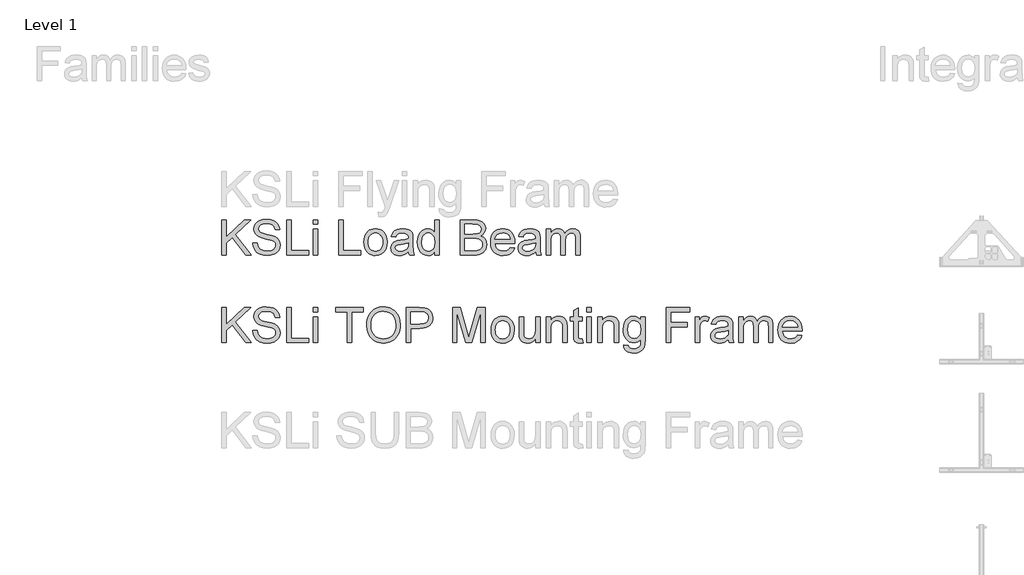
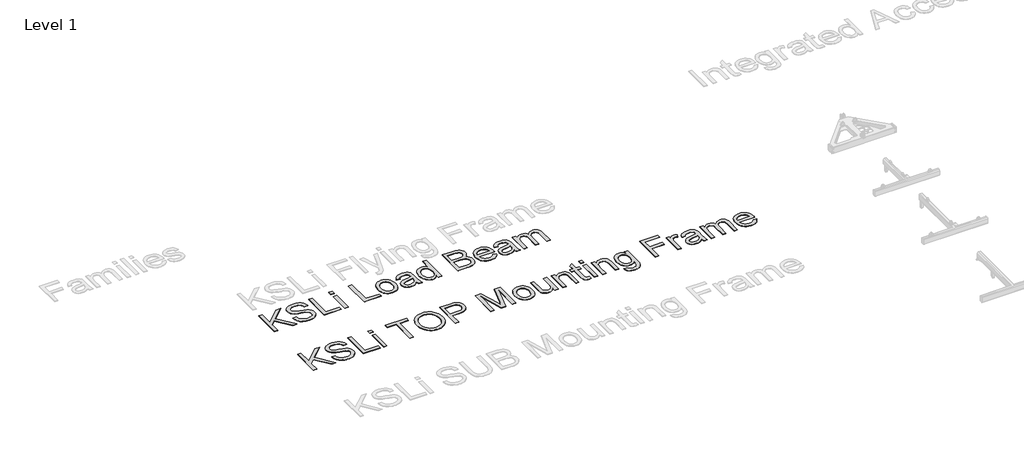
# One storey, part 34 of 52: 2 proxies.
"""IFC4 building model written with IfcOpenShell, lengths in millimetres."""

import ifcopenshell
import ifcopenshell.guid

model = None  # the IFC model being written
_history = None  # IfcOwnerHistory: only IFC2X3 demands one
_inside = {}  # id of a spatial element -> (the spatial element, [elements in it])
_under = {}  # id of a project, library or spatial element -> (it, [spatial elements below it])
_declared = {}  # id of a project -> (the project, [libraries it declares])
_typed = {}  # id of a type object -> (the type object, [elements of that type])
_made_of = {}  # id of a material, layer set ... -> (it, [elements and type objects made of it])


def new_model(schema):
    """Start an empty IFC model of exactly this schema.

    Asked for "IFC4X3", IfcOpenShell would pick the latest addendum, in which some entities
    have other attributes; the version numbers below select the first issue.
    IFC2X3 requires an IfcOwnerHistory on every rooted entity: one is made here for all.
    """
    global model, _history
    if schema == "IFC4X3":
        model = ifcopenshell.file(schema_version=(4, 3, 0, 0))
    else:
        model = ifcopenshell.file(schema=schema)
    _inside.clear()
    _under.clear()
    _declared.clear()
    _typed.clear()
    _made_of.clear()
    _history = None
    if model.schema == "IFC2X3":
        org = make("IfcOrganization", Name="unknown")
        user = make(
            "IfcPersonAndOrganization",
            ThePerson=make("IfcPerson", FamilyName="unknown"),
            TheOrganization=org,
        )
        app = make(
            "IfcApplication",
            ApplicationDeveloper=org,
            Version="unknown",
            ApplicationFullName="unknown",
            ApplicationIdentifier="unknown",
        )
        _history = make(
            "IfcOwnerHistory",
            OwningUser=user,
            OwningApplication=app,
            ChangeAction="ADDED",
            CreationDate=0,
        )
    return model


def make(cls, **values):
    """One entity of the class cls with the attributes given. An attribute that is None is left unset."""
    return model.create_entity(
        cls, **{name: value for name, value in values.items() if value is not None}
    )


def rooted(cls, **values):
    """An entity with a GlobalId (a new one), such as an element, a storey or a relation."""
    return make(cls, GlobalId=ifcopenshell.guid.new(), OwnerHistory=_history, **values)


def si_unit(unit_type, name, prefix=None):
    """IfcSIUnit, for example si_unit("LENGTHUNIT", "METRE", prefix="MILLI")."""
    return make("IfcSIUnit", UnitType=unit_type, Prefix=prefix, Name=name)


def assignment(units):
    """IfcUnitAssignment: the units of a project."""
    return None if units is None else make("IfcUnitAssignment", Units=units)


def point(xyz):
    """IfcCartesianPoint."""
    return None if xyz is None else make("IfcCartesianPoint", Coordinates=xyz)


def direction(xyz):
    """IfcDirection."""
    return None if xyz is None else make("IfcDirection", DirectionRatios=xyz)


def frame(location, z_axis=None, x_axis=None):
    """IfcAxis2Placement3D, a coordinate frame: its origin and axes. An axis left out is left unset."""
    return make(
        "IfcAxis2Placement3D",
        Location=point(location),
        Axis=direction(z_axis),
        RefDirection=direction(x_axis),
    )


def origin():
    """The frame at (0, 0, 0) with its axes left unset."""
    return frame((0.0, 0.0, 0.0))


def origin_with_axes():
    """The frame at (0, 0, 0) with the z axis (0, 0, 1) and the x axis (1, 0, 0) written out."""
    return frame((0.0, 0.0, 0.0), z_axis=(0.0, 0.0, 1.0), x_axis=(1.0, 0.0, 0.0))


def place(relative_to, where):
    """IfcLocalPlacement: puts the frame where relative to a parent placement (None: the world)."""
    return make(
        "IfcLocalPlacement", PlacementRelTo=relative_to, RelativePlacement=where
    )


def context(
    kind, dimensions, precision=None, world=None, true_north=None, identifier=None
):
    """IfcGeometricRepresentationContext, for example the 3D "Model" context."""
    return make(
        "IfcGeometricRepresentationContext",
        ContextIdentifier=identifier,
        ContextType=kind,
        CoordinateSpaceDimension=dimensions,
        Precision=precision,
        WorldCoordinateSystem=world,
        TrueNorth=true_north,
    )


def project(units=None, contexts=None):
    """IfcProject with its units and contexts."""
    return rooted(
        "IfcProject",
        Name="project",
        RepresentationContexts=contexts,
        UnitsInContext=assignment(units),
    )


def spatial(cls, under=None, at=None, **own):
    """A site, building, storey or space (cls), placed at a placement, below another one or the project."""
    s = rooted(cls, ObjectPlacement=at, **own)
    if under is not None:
        _under.setdefault(under.id(), (under, []))[1].append(s)
    return s


def polyline(points):
    """IfcPolyline through the points."""
    return make("IfcPolyline", Points=[point(p) for p in points])


def outline(outer, holes=None, kind="AREA"):
    """IfcArbitraryClosedProfileDef: a profile drawn as a closed curve; with holes, ...WithVoids."""
    if holes is None:
        return make("IfcArbitraryClosedProfileDef", ProfileType=kind, OuterCurve=outer)
    return make(
        "IfcArbitraryProfileDefWithVoids",
        ProfileType=kind,
        OuterCurve=outer,
        InnerCurves=holes,
    )


def extrude(swept, where, along, depth):
    """IfcExtrudedAreaSolid: the profile swept, set in the frame where, extruded along a direction by depth."""
    return make(
        "IfcExtrudedAreaSolid",
        SweptArea=swept,
        Position=where,
        ExtrudedDirection=direction(along),
        Depth=depth,
    )


def shape(context_of_items, identifier, shape_type, items):
    """IfcShapeRepresentation: the items that make up one representation, for example the "Body"."""
    return make(
        "IfcShapeRepresentation",
        ContextOfItems=context_of_items,
        RepresentationIdentifier=identifier,
        RepresentationType=shape_type,
        Items=items,
    )


def made_of(thing, what):
    """Note that an element or type object is made of a material, layer set ...; save() writes the relation."""
    if what is not None:
        _made_of.setdefault(what.id(), (what, []))[1].append(thing)
    return thing


def element(
    cls,
    number,
    at=None,
    inside=None,
    cuts=None,
    type_object=None,
    material=None,
    context=None,
    identifier="Body",
    shape_type=None,
    held_by="IfcProductDefinitionShape",
    body=None,
    shapes=None,
    **own,
):
    """One element of the class cls, such as IfcWall. Its Tag is "e" and its number.

    at: its placement. inside: the storey or other place that contains it. cuts: it is an
    opening in that element (IfcRelVoidsElement). A single representation is given by context,
    identifier, shape_type and body (its items); several are given by shapes. held_by: the class
    of the entity that holds the representations. save() writes the other relations.
    """
    e = rooted(cls, Tag="e%d" % number, ObjectPlacement=at, **own)
    if body is not None:
        shapes = [shape(context, identifier, shape_type, body)]
    if shapes is not None:
        e.Representation = make(held_by, Representations=shapes)
    if inside is not None:
        _inside.setdefault(inside.id(), (inside, []))[1].append(e)
    if cuts is not None:
        rooted(
            "IfcRelVoidsElement", RelatingBuildingElement=cuts, RelatedOpeningElement=e
        )
    if type_object is not None:
        _typed.setdefault(type_object.id(), (type_object, []))[1].append(e)
    return made_of(e, material)


def aggregate(whole, parts):
    """IfcRelAggregates: a whole, such as a stair, and the parts it consists of."""
    return rooted("IfcRelAggregates", RelatingObject=whole, RelatedObjects=parts)


def save(model, path):
    """Write the relations noted so far, then the file.

    IfcRelAggregates (storeys below a building ...), IfcRelContainedInSpatialStructure (elements
    in a storey), IfcRelDefinesByType, IfcRelAssociatesMaterial and IfcRelDeclares: one each for
    every whole, place, type object, material and project.
    """
    for whole, parts in _under.values():
        aggregate(whole, parts)
    for where, things in _inside.values():
        rooted(
            "IfcRelContainedInSpatialStructure",
            RelatedElements=things,
            RelatingStructure=where,
        )
    for kind, things in _typed.values():
        rooted("IfcRelDefinesByType", RelatedObjects=things, RelatingType=kind)
    for what, things in _made_of.values():
        rooted("IfcRelAssociatesMaterial", RelatedObjects=things, RelatingMaterial=what)
    for by, libraries in _declared.values():
        rooted("IfcRelDeclares", RelatingContext=by, RelatedDefinitions=libraries)
    model.write(path)


model = new_model("IFC4")

# Units and contexts
model_context = context("Model", 3, world=origin())
ifc_project = project(units=[si_unit("LENGTHUNIT", "METRE", prefix="MILLI")], contexts=[model_context])

# Site, building, storey
site = spatial("IfcSite", under=ifc_project)
building = spatial("IfcBuilding", under=site)
storey = spatial("IfcBuildingStorey", under=building, Name="Level 1", Elevation=0.0)

# Proxies
placement = place(None, origin())
element("IfcBuildingElementProxy", 1, Name="400mm Arial", ObjectType="400mm Arial", at=placement, inside=storey, context=model_context, shape_type="SweptSolid", body=[
    extrude(outline(polyline([(8048.9284942, -52556.6859046), (8048.9284942, -52154.860664), (8099.1566493, -52154.860664), (8099.1566493, -52351.554904), (8305.1705666, -52154.860664), (8375.4115022, -52154.860664), (8202.4579136, -52320.0642053), (8381.6900216, -52556.6859046), (8320.2782539, -52556.6859046), (8166.8469364, -52354.0074507), (8099.1566493, -52418.5584781), (8099.1566493, -52556.6859046), (8048.9284942, -52556.6859046)])), origin_with_axes(), (0.0, 0.0, 1.0), 5.0),
    extrude(outline(polyline([(8400.5255798, -52418.5584781), (8450.7537348, -52418.5584781), (8456.5172194, -52446.4316706), (8466.9405426, -52468.8356841), (8483.2009268, -52486.6166472), (8506.4755944, -52500.6206885), (8534.9251353, -52509.7073738), (8566.7101397, -52512.7362689), (8594.6936968, -52510.4431378), (8619.1946377, -52503.5637445), (8639.0480027, -52492.6744374), (8653.0888322, -52478.3515651), (8661.4397535, -52461.9072399), (8664.2233939, -52444.6535743), (8662.1387293, -52427.8413671), (8655.8847354, -52413.3100283), (8643.1805438, -52400.9124051), (8621.7452862, -52390.5013446), (8548.6103456, -52371.3224299), (8500.6017452, -52358.6305011), (8469.8835986, -52346.5517089), (8444.8798857, -52329.6536626), (8427.1602362, -52309.1748982), (8416.602023, -52285.5568741), (8413.0826185, -52259.2410487), (8417.4358888, -52229.8227518), (8430.4956996, -52202.3910177), (8451.9186945, -52179.1408756), (8481.3615168, -52162.2673548), (8516.7027138, -52152.0034471), (8555.8208327, -52148.5821446), (8598.2008385, -52152.1628627), (8635.2833436, -52162.9050169), (8665.7439728, -52180.5878782), (8688.2583509, -52204.9907172), (8702.5076469, -52234.592955), (8708.1730296, -52267.8740129), (8657.9448745, -52267.8740129), (8648.7232992, -52237.903893), (8640.3601152, -52226.04583), (8629.4953336, -52216.2724317), (8599.4516373, -52203.1758327), (8557.78287, -52198.8102996), (8515.133084, -52203.1267817), (8498.8297802, -52208.5223843), (8485.8742027, -52216.076228), (8468.9516309, -52235.1325153), (8463.3107736, -52257.7695207), (8467.3084246, -52277.0710628), (8479.3013777, -52292.595683), (8507.6528168, -52306.4770969), (8561.3145371, -52320.6528165), (8616.6930401, -52334.1172975), (8650.1948272, -52345.8649959), (8678.8283091, -52364.0874173), (8698.8043015, -52386.57727), (8710.5397371, -52413.0892991), (8714.451549, -52443.37825), (8709.9511259, -52474.3416513), (8696.4498567, -52503.4656426), (8674.4995643, -52528.5306692), (8644.6520718, -52547.3171764), (8608.7590518, -52559.0526121), (8568.672177, -52562.9644239), (8519.4618288, -52558.7460437), (8478.9580211, -52546.0909031), (8446.6947702, -52524.9499511), (8422.206092, -52495.2741368), (8406.4852681, -52459.1235994), (8400.5255798, -52418.5584781)])), origin_with_axes(), (0.0, 0.0, 1.0), 5.0),
    extrude(outline(polyline([(8789.7937816, -52556.6859046), (8789.7937816, -52154.860664), (8840.0219367, -52154.860664), (8840.0219367, -52506.4577495), (9040.934557, -52506.4577495), (9040.934557, -52556.6859046), (8789.7937816, -52556.6859046)])), origin_with_axes(), (0.0, 0.0, 1.0), 5.0),
    extrude(outline(polyline([(9091.162712, -52205.088819), (9091.162712, -52154.860664), (9141.3908671, -52154.860664), (9141.3908671, -52205.088819), (9091.162712, -52205.088819)])), origin_with_axes(), (0.0, 0.0, 1.0), 5.0),
    extrude(outline(polyline([(9091.162712, -52556.6859046), (9091.162712, -52261.5954935), (9141.3908671, -52261.5954935), (9141.3908671, -52556.6859046), (9091.162712, -52556.6859046)])), origin_with_axes(), (0.0, 0.0, 1.0), 5.0),
    extrude(outline(polyline([(9480.4309139, -52556.6859046), (9480.4309139, -52205.088819), (9348.5820068, -52205.088819), (9348.5820068, -52154.860664), (9662.507976, -52154.860664), (9662.507976, -52205.088819), (9530.659069, -52205.088819), (9530.659069, -52556.6859046), (9480.4309139, -52556.6859046)])), origin_with_axes(), (0.0, 0.0, 1.0), 5.0),
    extrude(outline(polyline([(9700.1790923, -52361.070785), (9703.5268185, -52313.93897), (9713.569997, -52272.2150204), (9730.3086277, -52235.8989361), (9753.7427108, -52204.9907172), (9782.4681633, -52180.3119667), (9815.0809022, -52162.6842877), (9851.5809274, -52152.1076804), (9891.9682391, -52148.5821446), (9919.0014344, -52150.2376136), (9944.6734663, -52155.2040205), (9968.9843348, -52163.4813654), (9991.93404, -52175.0696482), (10012.8787882, -52189.6193811), (10031.1747861, -52206.7810762), (10046.8220337, -52226.5547335), (10059.8205308, -52248.9403529), (10070.0353875, -52273.429031), (10077.3317138, -52299.5118645), (10083.1687748, -52356.4599973), (10081.6328674, -52386.1174175), (10077.0251455, -52414.1684196), (10069.3456088, -52440.6130037), (10058.5942575, -52465.4511698), (10045.0255432, -52488.0268615), (10028.8939178, -52507.6840228), (10010.199381, -52524.4226536), (9988.9419331, -52538.2427539), (9965.9585054, -52549.0584845), (9942.0860296, -52556.7840064), (9917.3245057, -52561.4193196), (9891.6739336, -52562.9644239), (9864.168623, -52561.2568383), (9838.159366, -52556.1340816), (9813.6461624, -52547.5961536), (9790.6290122, -52535.6430544), (9769.7087894, -52520.7377023), (9751.4863679, -52503.3430153), (9735.9617477, -52483.4589934), (9723.1349288, -52461.0856367), (9705.9180515, -52412.4638997), (9700.1790923, -52361.070785)]), holes=[polyline([(9750.4072474, -52361.5612943), (9752.918042, -52394.8607462), (9760.4504259, -52424.4200646), (9773.004399, -52450.2392493), (9790.5799613, -52472.3183003), (9811.9447081, -52490.0011616), (9835.8662349, -52502.6317767), (9862.3445415, -52510.2101458), (9891.379628, -52512.7362689), (9920.9113551, -52510.1856204), (9947.7023614, -52502.5336749), (9971.7526469, -52489.7804324), (9993.0622114, -52471.9258929), (10010.509015, -52449.3808579), (10022.9710176, -52422.5561291), (10030.4482192, -52391.4517064), (10032.9406197, -52356.0675899), (10028.6731886, -52311.6029194), (10015.8708951, -52273.1715136), (9994.8648332, -52241.7421285), (9965.9860966, -52218.2835199), (9931.1476716, -52203.6786047), (9892.2625447, -52198.8102996), (9864.2360681, -52201.1555474), (9838.2329424, -52208.1912905), (9814.2531677, -52219.9175291), (9792.2967439, -52236.3342632), (9773.9700892, -52258.2324389), (9760.8796215, -52286.4030027), (9753.0253409, -52320.8459545), (9750.4072474, -52361.5612943)])]), origin_with_axes(), (0.0, 0.0, 1.0), 5.0),
    extrude(outline(polyline([(10152.232488, -52556.6859046), (10152.232488, -52154.860664), (10301.1511197, -52154.860664), (10361.1894613, -52158.6866367), (10387.9590078, -52165.8358101), (10409.9951393, -52177.4731439), (10427.7393142, -52194.1259356), (10441.6329909, -52216.3214826), (10450.6093116, -52242.5024179), (10453.6014185, -52271.1113744), (10451.5811332, -52295.7778622), (10445.5202773, -52318.4700499), (10435.4188508, -52339.1879376), (10421.2768538, -52357.9315253), (10401.8618815, -52373.4684082), (10375.9415293, -52384.5661817), (10343.5157971, -52391.2248459), (10304.5846849, -52393.4444006), (10202.4606431, -52393.4444006), (10202.4606431, -52556.6859046), (10152.232488, -52556.6859046)]), holes=[polyline([(10202.4606431, -52343.2162455), (10307.5277409, -52343.2162455), (10352.0659878, -52338.6054578), (10368.6697285, -52332.8419732), (10381.4965474, -52324.7730948), (10391.0676106, -52314.6134204), (10397.9040844, -52302.5775478), (10403.3732634, -52272.877208), (10400.1481646, -52250.313779), (10390.4728681, -52231.2820171), (10375.5491218, -52216.9591447), (10356.5786736, -52208.5223843), (10306.3505185, -52205.088819), (10202.4606431, -52205.088819), (10202.4606431, -52343.2162455)])]), origin_with_axes(), (0.0, 0.0, 1.0), 5.0),
    extrude(outline(polyline([(10679.6281163, -52556.6859046), (10679.6281163, -52154.860664), (10766.0558597, -52154.860664), (10848.2652229, -52438.0807493), (10864.8444381, -52497.2361741), (10882.7970795, -52433.175656), (10963.6330166, -52154.860664), (11050.06076, -52154.860664), (11050.06076, -52556.6859046), (10999.8326049, -52556.6859046), (10999.8326049, -52205.088819), (10898.8857854, -52556.6859046), (10830.8030908, -52556.6859046), (10729.8562714, -52205.088819), (10729.8562714, -52556.6859046), (10679.6281163, -52556.6859046)])), origin_with_axes(), (0.0, 0.0, 1.0), 5.0),
    extrude(outline(polyline([(11119.1244732, -52409.140699), (11121.8406686, -52370.9238911), (11129.9892548, -52337.9923212), (11143.5702318, -52310.3459892), (11162.5835996, -52287.9848953), (11181.725726, -52273.6926798), (11202.8544153, -52263.4839544), (11225.9696673, -52257.3587192), (11251.0714821, -52255.3169741), (11278.7821934, -52257.8032433), (11303.838023, -52265.2620507), (11326.2389708, -52277.6933965), (11345.9850369, -52295.0972805), (11362.101334, -52316.8850917), (11373.6129747, -52342.4682188), (11380.5199592, -52371.8466618), (11382.8222873, -52405.0204207), (11378.7510599, -52455.7636105), (11366.5373777, -52494.39122), (11346.5368599, -52523.3190076), (11319.1051258, -52544.9627316), (11286.5230437, -52558.4640009), (11251.0714821, -52562.9644239), (11222.9561006, -52560.4873518), (11197.6672792, -52553.0561355), (11175.2050177, -52540.670775), (11155.5693162, -52523.3312703), (11139.6246974, -52501.331927), (11128.2356839, -52474.9670507), (11121.4022759, -52444.2366414), (11119.1244732, -52409.140699)]), holes=[polyline([(11169.3526283, -52409.0425972), (11170.8057622, -52433.4055823), (11175.1651638, -52454.500549), (11182.4308332, -52472.3274974), (11192.6027704, -52486.8864273), (11204.9758681, -52498.195733), (11218.8450194, -52506.2738085), (11234.210224, -52511.1206538), (11251.0714821, -52512.7362689), (11267.8469011, -52511.1114567), (11283.1507921, -52506.2370203), (11296.9831551, -52498.1129596), (11309.3439902, -52486.7392745), (11319.5159273, -52472.0362575), (11326.7815967, -52453.9242006), (11331.1409984, -52432.4031039), (11332.5941323, -52407.4729673), (11331.1318013, -52383.8825344), (11326.7448085, -52363.3393906), (11319.4331539, -52345.8435361), (11309.1968374, -52331.3949707), (11296.7900171, -52320.085665), (11282.9668511, -52312.0075896), (11267.7273395, -52307.1607443), (11251.0714821, -52305.5451292), (11234.210224, -52307.1546129), (11218.8450194, -52311.9830641), (11204.9758681, -52320.0304827), (11192.6027704, -52331.2968688), (11182.4308332, -52345.8128792), (11175.1651638, -52363.6091708), (11170.8057622, -52384.6857434), (11169.3526283, -52409.0425972)])]), origin_with_axes(), (0.0, 0.0, 1.0), 5.0),
    extrude(outline(polyline([(11627.6845433, -52556.6859046), (11627.6845433, -52505.9672402), (11609.5111728, -52530.9035081), (11588.3456953, -52548.715128), (11564.188111, -52559.4021), (11537.0384197, -52562.9644239), (11512.574267, -52560.4628264), (11489.8023715, -52552.9580337), (11470.6970333, -52541.6763192), (11457.2325522, -52527.8439561), (11448.1703924, -52511.0440117), (11442.2720178, -52490.8595529), (11439.3289618, -52444.163065), (11439.3289618, -52261.5954935), (11489.5571169, -52261.5954935), (11489.5571169, -52420.5205154), (11492.5982747, -52471.7296891), (11499.9191264, -52488.8116764), (11512.4639024, -52501.7979109), (11529.3987369, -52510.0016794), (11549.8897641, -52512.7362689), (11571.5580136, -52509.9403657), (11591.8283115, -52501.5526562), (11608.5424168, -52488.3456926), (11619.5420885, -52471.092027), (11625.6489296, -52447.4617402), (11627.6845433, -52415.1249128), (11627.6845433, -52261.5954935), (11677.9126984, -52261.5954935), (11677.9126984, -52556.6859046), (11627.6845433, -52556.6859046)])), origin_with_axes(), (0.0, 0.0, 1.0), 5.0),
    extrude(outline(polyline([(11746.9764116, -52556.6859046), (11746.9764116, -52261.5954935), (11797.2045667, -52261.5954935), (11797.2045667, -52302.798277), (11814.654436, -52282.025207), (11835.611447, -52267.1872998), (11860.0755997, -52258.2845555), (11888.046894, -52255.3169741), (11912.8053523, -52257.7082071), (11935.479146, -52264.881906), (11954.3882805, -52275.9428913), (11967.8527615, -52289.9959835), (11976.9884977, -52307.0043944), (11982.9113979, -52326.9313358), (11985.5601482, -52375.4917592), (11985.5601482, -52556.6859046), (11935.3319932, -52556.6859046), (11935.3319932, -52382.2607879), (11933.8849906, -52356.2883191), (11929.5439831, -52337.8206429), (11921.5364183, -52324.5891538), (11909.0897442, -52314.3252461), (11893.1359283, -52307.7401584), (11874.6069385, -52305.5451292), (11845.1886416, -52310.4747479), (11820.1113523, -52325.2636041), (11810.0896336, -52337.3362649), (11802.9312631, -52353.8357724), (11798.6362408, -52374.7621266), (11797.2045667, -52400.1153274), (11797.2045667, -52556.6859046), (11746.9764116, -52556.6859046)])), origin_with_axes(), (0.0, 0.0, 1.0), 5.0),
    extrude(outline(polyline([(12161.358691, -52514.796408), (12167.6372104, -52558.1574325), (12130.0641959, -52562.9644239), (12105.9556625, -52560.8797593), (12087.9784957, -52554.6257654), (12075.2743041, -52544.9872571), (12066.9846965, -52532.7490494), (12062.4229598, -52511.7307247), (12060.9023808, -52475.7518656), (12060.9023808, -52311.8236486), (12023.2312645, -52311.8236486), (12023.2312645, -52261.5954935), (12060.9023808, -52261.5954935), (12060.9023808, -52189.8830299), (12111.1305359, -52160.3543684), (12111.1305359, -52261.5954935), (12161.358691, -52261.5954935), (12161.358691, -52311.8236486), (12111.1305359, -52311.8236486), (12111.1305359, -52474.2803376), (12113.7792863, -52500.1792301), (12122.3631995, -52509.3517545), (12139.481975, -52512.7362689), (12161.358691, -52514.796408)])), origin_with_axes(), (0.0, 0.0, 1.0), 5.0),
    extrude(outline(polyline([(12211.5868461, -52556.6859046), (12211.5868461, -52261.5954935), (12261.8150011, -52261.5954935), (12261.8150011, -52556.6859046), (12211.5868461, -52556.6859046)])), origin_with_axes(), (0.0, 0.0, 1.0), 5.0),
    extrude(outline(polyline([(12211.5868461, -52205.088819), (12211.5868461, -52154.860664), (12261.8150011, -52154.860664), (12261.8150011, -52205.088819), (12211.5868461, -52205.088819)])), origin_with_axes(), (0.0, 0.0, 1.0), 5.0),
    extrude(outline(polyline([(12337.1572338, -52556.6859046), (12337.1572338, -52261.5954935), (12387.3853888, -52261.5954935), (12387.3853888, -52302.798277), (12404.8352581, -52282.025207), (12425.7922691, -52267.1872998), (12450.2564218, -52258.2845555), (12478.2277162, -52255.3169741), (12502.9861745, -52257.7082071), (12525.6599681, -52264.881906), (12544.5691026, -52275.9428913), (12558.0335837, -52289.9959835), (12567.1693199, -52307.0043944), (12573.09222, -52326.9313358), (12575.7409704, -52375.4917592), (12575.7409704, -52556.6859046), (12525.5128153, -52556.6859046), (12525.5128153, -52382.2607879), (12524.0658128, -52356.2883191), (12519.7248052, -52337.8206429), (12511.7172405, -52324.5891538), (12499.2705663, -52314.3252461), (12483.3167504, -52307.7401584), (12464.7877606, -52305.5451292), (12435.3694637, -52310.4747479), (12410.2921744, -52325.2636041), (12400.2704557, -52337.3362649), (12393.1120852, -52353.8357724), (12388.8170629, -52374.7621266), (12387.3853888, -52400.1153274), (12387.3853888, -52556.6859046), (12337.1572338, -52556.6859046)])), origin_with_axes(), (0.0, 0.0, 1.0), 5.0),
    extrude(outline(polyline([(12632.2476448, -52581.7999821), (12682.4757999, -52588.0785015), (12688.0185553, -52603.7747999), (12698.7607096, -52614.5660051), (12719.8771361, -52622.9537146), (12747.5173366, -52625.7496178), (12776.9969472, -52622.5858326), (12798.9227141, -52613.0944772), (12814.1285032, -52597.888688), (12823.4481804, -52577.5816019), (12826.8817457, -52519.0147883), (12810.1676404, -52535.4959016), (12791.5160233, -52547.2681255), (12770.9268943, -52554.3314598), (12748.4002534, -52556.6859046), (12720.8612204, -52553.9451837), (12696.6147312, -52545.7230211), (12675.6607859, -52532.0194168), (12657.9993845, -52512.8343707), (12643.9861462, -52489.8172206), (12633.9766902, -52464.6173039), (12627.9710166, -52437.2346207), (12625.9691254, -52407.669171), (12629.5621063, -52367.1163124), (12640.3410487, -52329.8253409), (12657.9258081, -52298.2242775), (12681.9362396, -52274.7411435), (12711.5507402, -52260.1730164), (12745.9477068, -52255.3169741), (12769.4369722, -52258.0638263), (12790.7557338, -52266.304383), (12809.9039917, -52280.0386442), (12826.8817457, -52299.2666098), (12826.8817457, -52261.5954935), (12877.1099008, -52261.5954935), (12877.1099008, -52516.3660379), (12873.6763355, -52575.1903689), (12863.3756397, -52613.928343), (12845.6314648, -52639.618769), (12819.8674624, -52659.3004557), (12786.6477182, -52671.8084436), (12746.536318, -52675.9777729), (12721.9280782, -52674.5093106), (12699.8030419, -52670.1039237), (12680.161209, -52662.7616122), (12663.0025796, -52652.4823761), (12649.1426255, -52639.2539527), (12639.3968183, -52623.0640792), (12633.7651581, -52603.9127557), (12632.2476448, -52581.7999821)]), holes=[polyline([(12676.1972805, -52404.2356058), (12681.5560949, -52450.3066943), (12688.2546129, -52467.9435703), (12697.6325381, -52481.9813341), (12709.0338143, -52492.6897658), (12721.8023852, -52500.3386456), (12735.9382508, -52504.9279735), (12751.4414113, -52506.4577495), (12766.7912875, -52504.9371706), (12780.8597081, -52500.3754338), (12793.6466732, -52492.7725393), (12805.1521826, -52482.1284869), (12814.6588664, -52468.2286788), (12821.4493549, -52450.8585173), (12826.8817457, -52405.7071337), (12821.2899394, -52362.1621682), (12814.3001815, -52344.9606193), (12804.5145204, -52330.8063595), (12792.7606907, -52319.7545712), (12779.8664268, -52311.8604368), (12765.8317286, -52307.1239561), (12750.6565963, -52305.5451292), (12735.7359157, -52307.0994306), (12721.9740634, -52311.7623349), (12697.9268437, -52330.4139521), (12688.4201598, -52344.353614), (12681.6296713, -52361.3037769), (12676.1972805, -52404.2356058)])]), origin_with_axes(), (0.0, 0.0, 1.0), 5.0),
    extrude(outline(polyline([(13115.6936374, -52556.6859046), (13115.6936374, -52154.860664), (13385.6699709, -52154.860664), (13385.6699709, -52205.088819), (13165.9217925, -52205.088819), (13165.9217925, -52324.3806873), (13354.277374, -52324.3806873), (13354.277374, -52374.6088424), (13165.9217925, -52374.6088424), (13165.9217925, -52556.6859046), (13115.6936374, -52556.6859046)])), origin_with_axes(), (0.0, 0.0, 1.0), 5.0),
    extrude(outline(polyline([(13448.4551648, -52556.6859046), (13448.4551648, -52261.5954935), (13492.4048005, -52261.5954935), (13492.4048005, -52305.2508236), (13508.6406592, -52279.9405423), (13523.6011937, -52265.0290588), (13538.6107791, -52257.7449953), (13554.9937906, -52255.3169741), (13580.0097663, -52259.1919978), (13605.4181494, -52270.8170688), (13588.6427304, -52315.845825), (13570.9843946, -52308.1203031), (13553.3260589, -52305.5451292), (13538.3287362, -52308.0222013), (13524.9255689, -52315.4534176), (13514.0975755, -52327.2746924), (13506.8257747, -52342.9219399), (13500.7189336, -52370.9790734), (13498.6833199, -52401.5868554), (13498.6833199, -52556.6859046), (13448.4551648, -52556.6859046)])), origin_with_axes(), (0.0, 0.0, 1.0), 5.0),
    extrude(outline(polyline([(13825.1663278, -52519.0147883), (13801.168159, -52539.5916545), (13776.4587517, -52553.0561355), (13750.4740201, -52560.4873518), (13722.6498785, -52562.9644239), (13700.2857189, -52561.4745019), (13680.6745429, -52557.0047356), (13663.8163504, -52549.5551252), (13649.7111416, -52539.1256707), (13638.5735142, -52526.3785595), (13630.6180661, -52511.9759794), (13625.8447972, -52495.9179303), (13624.2537076, -52478.2044123), (13626.6572033, -52457.3822913), (13633.8676904, -52438.4731568), (13644.9899893, -52422.286349), (13659.1289207, -52409.6312084), (13675.7449241, -52400.0662765), (13694.2984394, -52393.150095), (13737.7575658, -52385.5962513), (13789.1138923, -52377.6500002), (13824.8720223, -52368.330323), (13825.1663278, -52357.1467104), (13821.7082371, -52334.7304341), (13811.3339648, -52320.0642053), (13788.1328737, -52309.1748982), (13755.808309, -52305.5451292), (13725.8872401, -52307.9608876), (13704.9915428, -52315.2081629), (13690.7422468, -52328.6113303), (13680.760382, -52349.4947649), (13630.5322269, -52343.2162455), (13639.2510302, -52315.7477232), (13652.2617901, -52294.1653128), (13670.7785172, -52277.6596739), (13696.0152221, -52265.4214662), (13726.8805215, -52257.8430971), (13762.2830321, -52255.3169741), (13796.2385403, -52257.5487915), (13823.1552396, -52264.2442439), (13843.450063, -52274.3119478), (13857.5399434, -52286.6605201), (13866.8841461, -52301.9276229), (13872.9419363, -52320.7509183), (13875.3944829, -52364.700554), (13875.3944829, -52427.1914423), (13877.9451314, -52514.4530515), (13887.9515217, -52556.6859046), (13837.7233666, -52556.6859046), (13829.6790137, -52539.2237725), (13825.1663278, -52519.0147883)]), holes=[polyline([(13825.1663278, -52418.5584781), (13791.4192862, -52426.9216621), (13744.134187, -52433.960471), (13700.9203153, -52442.1029258), (13689.675389, -52447.6702067), (13681.3489932, -52455.3466776), (13676.1986453, -52464.5437275), (13674.4818626, -52474.6727451), (13678.2219962, -52489.6087541), (13689.4423971, -52501.8469618), (13707.8978105, -52510.0139421), (13733.3429819, -52512.7362689), (13760.3209948, -52509.7318992), (13784.1597481, -52500.7187904), (13803.4858156, -52487.4382503), (13816.9257712, -52471.6315873), (13822.8854595, -52455.3466776), (13824.8720223, -52432.7832486), (13825.1663278, -52418.5584781)])]), origin_with_axes(), (0.0, 0.0, 1.0), 5.0),
    extrude(outline(polyline([(13944.4581962, -52556.6859046), (13944.4581962, -52261.5954935), (13994.6863512, -52261.5954935), (13994.6863512, -52310.1559169), (14009.7940385, -52287.8500052), (14029.2182078, -52270.3756104), (14052.2966717, -52259.0816332), (14078.3672424, -52255.3169741), (14106.3017486, -52259.1552096), (14128.6934993, -52270.669916), (14145.4198674, -52289.100804), (14156.3582254, -52313.687584), (14174.666486, -52288.1504422), (14195.5499206, -52269.9096266), (14219.0085292, -52258.9651372), (14245.0423117, -52255.3169741), (14265.1501284, -52256.8344873), (14282.7992671, -52261.387027), (14297.9897278, -52268.9745932), (14310.7215106, -52279.5971858), (14320.7861488, -52293.3774322), (14327.9751761, -52310.4379597), (14332.2885925, -52330.7787684), (14333.726398, -52354.3998581), (14333.726398, -52556.6859046), (14283.4982429, -52556.6859046), (14283.4982429, -52375.9822685), (14282.3332833, -52350.9295047), (14278.8384043, -52334.0437211), (14272.2901048, -52322.4799637), (14261.9648835, -52313.3932784), (14248.6843434, -52307.5071665), (14233.2700878, -52305.5451292), (14206.0590829, -52310.5728498), (14183.8757986, -52325.6560116), (14175.2704256, -52337.2259003), (14169.1237306, -52351.8246842), (14164.2063746, -52390.1089371), (14164.2063746, -52556.6859046), (14113.9782195, -52556.6859046), (14113.9782195, -52370.3904622), (14111.0719518, -52341.9899722), (14102.3531485, -52321.731937), (14087.0124693, -52309.5918311), (14064.2405738, -52305.5451292), (14044.8899808, -52308.2429305), (14027.0599668, -52316.3363344), (14012.344687, -52329.6291371), (14002.3382967, -52347.925135), (13996.5993376, -52373.3089927), (13994.6863512, -52407.8653748), (13994.6863512, -52556.6859046), (13944.4581962, -52556.6859046)])), origin_with_axes(), (0.0, 0.0, 1.0), 5.0),
    extrude(outline(polyline([(14615.6711591, -52468.7866332), (14664.9182955, -52475.0651526), (14657.3675176, -52494.7897589), (14647.1741206, -52512.1721831), (14634.3381047, -52527.2124254), (14618.8594697, -52539.9104856), (14600.8976313, -52549.9965836), (14580.6120049, -52557.2009394), (14533.0693884, -52562.9644239), (14501.9036521, -52560.4781548), (14474.1346928, -52553.0193473), (14449.7625106, -52540.5880016), (14428.7871055, -52523.1841175), (14411.9197161, -52501.2920731), (14399.8715807, -52475.3962464), (14392.6426995, -52445.4966372), (14390.2330724, -52411.5932457), (14392.667225, -52376.5402229), (14399.9696826, -52345.6442667), (14412.1404453, -52318.905377), (14429.179513, -52296.3235538), (14450.0997358, -52278.3831752), (14473.9139636, -52265.568619), (14500.6221965, -52257.8798853), (14530.2244343, -52255.3169741), (14558.8732447, -52257.873754), (14584.7813342, -52265.5440936), (14607.9487029, -52278.3279929), (14628.3753507, -52296.225452), (14645.0496021, -52318.7582242), (14656.9597817, -52345.4480629), (14664.1058894, -52376.2949682), (14666.4879254, -52411.2989401), (14666.1936198, -52424.8369975), (14440.4612275, -52424.8369975), (14443.370561, -52444.8804349), (14449.1555053, -52462.4345374), (14457.8160606, -52477.4993051), (14469.3522269, -52490.074738), (14483.1263419, -52499.9891577), (14498.5007436, -52507.0708861), (14534.0504071, -52512.7362689), (14560.7831654, -52510.112044), (14583.2975435, -52502.2393693), (14601.5935414, -52488.6277354), (14615.6711591, -52468.7866332)]), holes=[polyline([(14440.4612275, -52374.6088424), (14616.2597703, -52374.6088424), (14609.4662161, -52348.0722878), (14596.1488879, -52329.0895769), (14582.4514149, -52318.788881), (14566.8654811, -52311.4312411), (14549.3910863, -52307.0166572), (14530.0282306, -52305.5451292), (14496.1708243, -52310.241756), (14468.1750045, -52324.3316364), (14448.7140469, -52346.2941915), (14440.4612275, -52374.6088424)])]), origin_with_axes(), (0.0, 0.0, 1.0), 5.0),
])
element("IfcBuildingElementProxy", 2, Name="400mm Arial", ObjectType="400mm Arial", at=placement, inside=storey, context=model_context, shape_type="SweptSolid", body=[
    extrude(outline(polyline([(8048.9284942, -51556.6859046), (8048.9284942, -51154.860664), (8099.1566493, -51154.860664), (8099.1566493, -51351.554904), (8305.1705666, -51154.860664), (8375.4115022, -51154.860664), (8202.4579136, -51320.0642053), (8381.6900216, -51556.6859046), (8320.2782539, -51556.6859046), (8166.8469364, -51354.0074507), (8099.1566493, -51418.5584781), (8099.1566493, -51556.6859046), (8048.9284942, -51556.6859046)])), origin_with_axes(), (0.0, 0.0, 1.0), 5.0),
    extrude(outline(polyline([(8400.5255798, -51418.5584781), (8450.7537348, -51418.5584781), (8456.5172194, -51446.4316706), (8466.9405426, -51468.8356841), (8483.2009268, -51486.6166472), (8506.4755944, -51500.6206885), (8534.9251353, -51509.7073738), (8566.7101397, -51512.7362689), (8594.6936968, -51510.4431378), (8619.1946377, -51503.5637445), (8639.0480027, -51492.6744374), (8653.0888322, -51478.3515651), (8661.4397535, -51461.9072399), (8664.2233939, -51444.6535743), (8662.1387293, -51427.8413671), (8655.8847354, -51413.3100283), (8643.1805438, -51400.9124051), (8621.7452862, -51390.5013446), (8548.6103456, -51371.3224299), (8500.6017452, -51358.6305011), (8469.8835986, -51346.5517089), (8444.8798857, -51329.6536626), (8427.1602362, -51309.1748982), (8416.602023, -51285.5568741), (8413.0826185, -51259.2410487), (8417.4358888, -51229.8227518), (8430.4956996, -51202.3910177), (8451.9186945, -51179.1408756), (8481.3615168, -51162.2673548), (8516.7027138, -51152.0034471), (8555.8208327, -51148.5821446), (8598.2008385, -51152.1628627), (8635.2833436, -51162.9050169), (8665.7439728, -51180.5878782), (8688.2583509, -51204.9907172), (8702.5076469, -51234.592955), (8708.1730296, -51267.8740129), (8657.9448745, -51267.8740129), (8648.7232992, -51237.903893), (8640.3601152, -51226.04583), (8629.4953336, -51216.2724317), (8599.4516373, -51203.1758327), (8557.78287, -51198.8102996), (8515.133084, -51203.1267817), (8498.8297802, -51208.5223843), (8485.8742027, -51216.076228), (8468.9516309, -51235.1325153), (8463.3107736, -51257.7695207), (8467.3084246, -51277.0710628), (8479.3013777, -51292.595683), (8507.6528168, -51306.4770969), (8561.3145371, -51320.6528165), (8616.6930401, -51334.1172975), (8650.1948272, -51345.8649959), (8678.8283091, -51364.0874173), (8698.8043015, -51386.57727), (8710.5397371, -51413.0892991), (8714.451549, -51443.37825), (8709.9511259, -51474.3416513), (8696.4498567, -51503.4656426), (8674.4995643, -51528.5306692), (8644.6520718, -51547.3171764), (8608.7590518, -51559.0526121), (8568.672177, -51562.9644239), (8519.4618288, -51558.7460437), (8478.9580211, -51546.0909031), (8446.6947702, -51524.9499511), (8422.206092, -51495.2741368), (8406.4852681, -51459.1235994), (8400.5255798, -51418.5584781)])), origin_with_axes(), (0.0, 0.0, 1.0), 5.0),
    extrude(outline(polyline([(8789.7937816, -51556.6859046), (8789.7937816, -51154.860664), (8840.0219367, -51154.860664), (8840.0219367, -51506.4577495), (9040.934557, -51506.4577495), (9040.934557, -51556.6859046), (8789.7937816, -51556.6859046)])), origin_with_axes(), (0.0, 0.0, 1.0), 5.0),
    extrude(outline(polyline([(9091.162712, -51205.088819), (9091.162712, -51154.860664), (9141.3908671, -51154.860664), (9141.3908671, -51205.088819), (9091.162712, -51205.088819)])), origin_with_axes(), (0.0, 0.0, 1.0), 5.0),
    extrude(outline(polyline([(9091.162712, -51556.6859046), (9091.162712, -51261.5954935), (9141.3908671, -51261.5954935), (9141.3908671, -51556.6859046), (9091.162712, -51556.6859046)])), origin_with_axes(), (0.0, 0.0, 1.0), 5.0),
    extrude(outline(polyline([(9379.9746037, -51556.6859046), (9379.9746037, -51154.860664), (9430.2027588, -51154.860664), (9430.2027588, -51506.4577495), (9631.1153791, -51506.4577495), (9631.1153791, -51556.6859046), (9379.9746037, -51556.6859046)])), origin_with_axes(), (0.0, 0.0, 1.0), 5.0),
    extrude(outline(polyline([(9668.7864954, -51409.140699), (9671.5026908, -51370.9238911), (9679.651277, -51337.9923212), (9693.232254, -51310.3459892), (9712.2456218, -51287.9848953), (9731.3877483, -51273.6926798), (9752.5164375, -51263.4839544), (9775.6316895, -51257.3587192), (9800.7335043, -51255.3169741), (9828.4442156, -51257.8032433), (9853.5000452, -51265.2620507), (9875.900993, -51277.6933965), (9895.6470591, -51295.0972805), (9911.7633562, -51316.8850917), (9923.2749969, -51342.4682188), (9930.1819814, -51371.8466618), (9932.4843096, -51405.0204207), (9928.4130821, -51455.7636105), (9916.1993999, -51494.39122), (9896.1988821, -51523.3190076), (9868.767148, -51544.9627316), (9836.1850659, -51558.4640009), (9800.7335043, -51562.9644239), (9772.6181229, -51560.4873518), (9747.3293014, -51553.0561355), (9724.8670399, -51540.670775), (9705.2313384, -51523.3312703), (9689.2867196, -51501.331927), (9677.8977062, -51474.9670507), (9671.0642981, -51444.2366414), (9668.7864954, -51409.140699)]), holes=[polyline([(9719.0146505, -51409.0425972), (9720.4677844, -51433.4055823), (9724.827186, -51454.500549), (9732.0928554, -51472.3274974), (9742.2647926, -51486.8864273), (9754.6378904, -51498.195733), (9768.5070416, -51506.2738085), (9783.8722462, -51511.1206538), (9800.7335043, -51512.7362689), (9817.5089233, -51511.1114567), (9832.8128143, -51506.2370203), (9846.6451773, -51498.1129596), (9859.0060124, -51486.7392745), (9869.1779495, -51472.0362575), (9876.443619, -51453.9242006), (9880.8030206, -51432.4031039), (9882.2561545, -51407.4729673), (9880.7938235, -51383.8825344), (9876.4068308, -51363.3393906), (9869.0951761, -51345.8435361), (9858.8588596, -51331.3949707), (9846.4520393, -51320.085665), (9832.6288733, -51312.0075896), (9817.3893617, -51307.1607443), (9800.7335043, -51305.5451292), (9783.8722462, -51307.1546129), (9768.5070416, -51311.9830641), (9754.6378904, -51320.0304827), (9742.2647926, -51331.2968688), (9732.0928554, -51345.8128792), (9724.827186, -51363.6091708), (9720.4677844, -51384.6857434), (9719.0146505, -51409.0425972)])]), origin_with_axes(), (0.0, 0.0, 1.0), 5.0),
    extrude(outline(polyline([(10177.3465655, -51519.0147883), (10153.3483967, -51539.5916545), (10128.6389894, -51553.0561355), (10102.6542578, -51560.4873518), (10074.8301162, -51562.9644239), (10052.4659566, -51561.4745019), (10032.8547806, -51557.0047356), (10015.9965881, -51549.5551252), (10001.8913793, -51539.1256707), (9990.7537519, -51526.3785595), (9982.7983038, -51511.9759794), (9978.0250349, -51495.9179303), (9976.4339452, -51478.2044123), (9978.8374409, -51457.3822913), (9986.047928, -51438.4731568), (9997.170227, -51422.286349), (10011.3091584, -51409.6312084), (10027.9251618, -51400.0662765), (10046.4786771, -51393.150095), (10089.9378035, -51385.5962513), (10141.29413, -51377.6500002), (10177.0522599, -51368.330323), (10177.3465655, -51357.1467104), (10173.8884748, -51334.7304341), (10163.5142025, -51320.0642053), (10140.3131114, -51309.1748982), (10107.9885467, -51305.5451292), (10078.0674778, -51307.9608876), (10057.1717805, -51315.2081629), (10042.9224845, -51328.6113303), (10032.9406197, -51349.4947649), (9982.7124646, -51343.2162455), (9991.4312679, -51315.7477232), (10004.4420278, -51294.1653128), (10022.9587549, -51277.6596739), (10048.1954598, -51265.4214662), (10079.0607592, -51257.8430971), (10114.4632698, -51255.3169741), (10148.418778, -51257.5487915), (10175.3354773, -51264.2442439), (10195.6303007, -51274.3119478), (10209.7201811, -51286.6605201), (10219.0643838, -51301.9276229), (10225.122174, -51320.7509183), (10227.5747206, -51364.700554), (10227.5747206, -51427.1914423), (10230.1253691, -51514.4530515), (10240.1317594, -51556.6859046), (10189.9036043, -51556.6859046), (10181.8592513, -51539.2237725), (10177.3465655, -51519.0147883)]), holes=[polyline([(10177.3465655, -51418.5584781), (10143.5995239, -51426.9216621), (10096.3144247, -51433.960471), (10053.100553, -51442.1029258), (10041.8556267, -51447.6702067), (10033.5292309, -51455.3466776), (10028.378883, -51464.5437275), (10026.6621003, -51474.6727451), (10030.4022339, -51489.6087541), (10041.6226348, -51501.8469618), (10060.0780482, -51510.0139421), (10085.5232195, -51512.7362689), (10112.5012325, -51509.7318992), (10136.3399858, -51500.7187904), (10155.6660533, -51487.4382503), (10169.1060088, -51471.6315873), (10175.0656972, -51455.3466776), (10177.0522599, -51432.7832486), (10177.3465655, -51418.5584781)])]), origin_with_axes(), (0.0, 0.0, 1.0), 5.0),
    extrude(outline(polyline([(10478.715496, -51556.6859046), (10478.715496, -51509.3027036), (10463.6875165, -51532.7797062), (10445.4834891, -51549.5489939), (10424.1034138, -51559.6105664), (10399.5472906, -51562.9644239), (10367.0755732, -51558.1083816), (10337.350708, -51543.5402546), (10312.1875795, -51520.2778498), (10293.4010723, -51489.338974), (10281.7024248, -51451.974426), (10277.8028757, -51409.4350046), (10281.3958565, -51367.4228808), (10292.174799, -51329.4819843), (10310.1274403, -51297.7705564), (10335.2415179, -51274.4468379), (10365.6163079, -51260.09944), (10399.3510869, -51255.3169741), (10423.9256042, -51258.7382767), (10445.6551674, -51269.0021843), (10464.0737926, -51284.735271), (10478.715496, -51304.5641105), (10478.715496, -51154.860664), (10528.9436511, -51154.860664), (10528.9436511, -51556.6859046), (10478.715496, -51556.6859046)]), holes=[polyline([(10328.0310308, -51409.2388009), (10329.4473764, -51433.5956547), (10333.6964135, -51454.6722273), (10340.7781419, -51472.4685188), (10350.6925617, -51486.9845292), (10375.3897063, -51506.298334), (10389.2649889, -51511.1267851), (10404.1580783, -51512.7362689), (10419.1216785, -51511.2003615), (10432.9141876, -51506.5926395), (10456.9859328, -51488.1617516), (10466.4926167, -51474.2527465), (10473.2831052, -51457.1002485), (10478.715496, -51413.0647736), (10473.1850033, -51364.9212832), (10466.2718875, -51346.386162), (10456.5935253, -51331.5421235), (10444.8918122, -51320.1684385), (10431.9086435, -51312.0443778), (10417.6440191, -51307.1699413), (10402.0979391, -51305.5451292), (10386.9105441, -51307.105562), (10373.0352615, -51311.7868604), (10360.4720914, -51319.5890243), (10349.2210337, -51330.5120539), (10339.9504074, -51344.7950724), (10333.3285315, -51362.677203), (10328.0310308, -51409.2388009)])]), origin_with_axes(), (0.0, 0.0, 1.0), 5.0),
    extrude(outline(polyline([(10767.5273877, -51556.6859046), (10767.5273877, -51154.860664), (10920.8606033, -51154.860664), (10963.0321426, -51157.8159827), (10995.9575812, -51166.6819387), (11021.1942861, -51181.6792614), (11040.2996244, -51203.0286799), (11052.3293656, -51228.1427574), (11056.3392794, -51254.4340573), (11052.9670277, -51278.6284299), (11042.8502729, -51301.3757999), (11025.9154383, -51321.2782158), (11002.0889478, -51336.9377261), (11030.5507515, -51351.8001587), (11051.5813389, -51374.4126387), (11064.5675733, -51403.2791126), (11068.8963181, -51436.9035269), (11065.9409994, -51464.9238722), (11057.0750433, -51490.9086038), (11043.8435542, -51513.006049), (11027.7916365, -51529.364535), (11008.1344752, -51541.2103353), (10984.0872555, -51549.769723), (10954.8651623, -51554.9568592), (10919.6833809, -51556.6859046), (10767.5273877, -51556.6859046)]), holes=[polyline([(10817.7555427, -51506.4577495), (10920.7625014, -51506.4577495), (10958.0412102, -51504.4957122), (10989.58096, -51493.5573542), (11001.1569801, -51484.1273124), (11010.4766573, -51471.2391798), (11016.6202866, -51455.469305), (11018.668163, -51437.3940363), (11016.2646673, -51416.4002371), (11009.0541802, -51398.3494938), (10996.4603533, -51384.235088), (10977.906838, -51375.0503008), (10951.6278008, -51370.0103175), (10915.8574081, -51368.330323), (10817.7555427, -51368.330323), (10817.7555427, -51506.4577495)]), polyline([(10817.7555427, -51318.102168), (10909.4807869, -51318.102168), (10963.0444054, -51313.7856859), (10981.7941244, -51306.3422068), (10995.2708682, -51295.1953824), (11003.4010602, -51280.5168908), (11006.1111243, -51262.4784103), (11003.5850012, -51244.9672273), (10996.0066321, -51229.7123872), (10983.7193735, -51217.8052733), (10967.0665819, -51210.3372688), (10941.5110459, -51206.4009315), (10902.5155544, -51205.088819), (10817.7555427, -51205.088819), (10817.7555427, -51318.102168)])]), origin_with_axes(), (0.0, 0.0, 1.0), 5.0),
    extrude(outline(polyline([(11338.2840405, -51468.7866332), (11387.5311769, -51475.0651526), (11379.9803989, -51494.7897589), (11369.787002, -51512.1721831), (11356.950986, -51527.2124254), (11341.4723511, -51539.9104856), (11323.5105127, -51549.9965836), (11303.2248863, -51557.2009394), (11255.6822698, -51562.9644239), (11224.5165334, -51560.4781548), (11196.7475742, -51553.0193473), (11172.375392, -51540.5880016), (11151.3999869, -51523.1841175), (11134.5325974, -51501.2920731), (11122.4844621, -51475.3962464), (11115.2555809, -51445.4966372), (11112.8459538, -51411.5932457), (11115.2801063, -51376.5402229), (11122.5825639, -51345.6442667), (11134.7533266, -51318.905377), (11151.7923944, -51296.3235538), (11172.7126172, -51278.3831752), (11196.526845, -51265.568619), (11223.2350778, -51257.8798853), (11252.8373157, -51255.3169741), (11281.4861261, -51257.873754), (11307.3942156, -51265.5440936), (11330.5615842, -51278.3279929), (11350.988232, -51296.225452), (11367.6624835, -51318.7582242), (11379.572663, -51345.4480629), (11386.7187708, -51376.2949682), (11389.1008067, -51411.2989401), (11388.8065011, -51424.8369975), (11163.0741089, -51424.8369975), (11165.9834423, -51444.8804349), (11171.7683867, -51462.4345374), (11180.428942, -51477.4993051), (11191.9651082, -51490.074738), (11205.7392233, -51499.9891577), (11221.113625, -51507.0708861), (11256.6632885, -51512.7362689), (11283.3960468, -51510.112044), (11305.9104249, -51502.2393693), (11324.2064228, -51488.6277354), (11338.2840405, -51468.7866332)]), holes=[polyline([(11163.0741089, -51374.6088424), (11338.8726516, -51374.6088424), (11332.0790975, -51348.0722878), (11318.7617692, -51329.0895769), (11305.0642963, -51318.788881), (11289.4783624, -51311.4312411), (11272.0039677, -51307.0166572), (11252.641112, -51305.5451292), (11218.7837057, -51310.241756), (11190.7878859, -51324.3316364), (11171.3269283, -51346.2941915), (11163.0741089, -51374.6088424)])]), origin_with_axes(), (0.0, 0.0, 1.0), 5.0),
    extrude(outline(polyline([(11627.6845433, -51519.0147883), (11603.6863745, -51539.5916545), (11578.9769672, -51553.0561355), (11552.9922356, -51560.4873518), (11525.168094, -51562.9644239), (11502.8039344, -51561.4745019), (11483.1927584, -51557.0047356), (11466.3345659, -51549.5551252), (11452.2293571, -51539.1256707), (11441.0917297, -51526.3785595), (11433.1362815, -51511.9759794), (11428.3630127, -51495.9179303), (11426.771923, -51478.2044123), (11429.1754187, -51457.3822913), (11436.3859058, -51438.4731568), (11447.5082048, -51422.286349), (11461.6471362, -51409.6312084), (11478.2631396, -51400.0662765), (11496.8166549, -51393.150095), (11540.2757813, -51385.5962513), (11591.6321078, -51377.6500002), (11627.3902377, -51368.330323), (11627.6845433, -51357.1467104), (11624.2264526, -51334.7304341), (11613.8521803, -51320.0642053), (11590.6510891, -51309.1748982), (11558.3265245, -51305.5451292), (11528.4054556, -51307.9608876), (11507.5097582, -51315.2081629), (11493.2604623, -51328.6113303), (11483.2785975, -51349.4947649), (11433.0504424, -51343.2162455), (11441.7692457, -51315.7477232), (11454.7800056, -51294.1653128), (11473.2967327, -51277.6596739), (11498.5334376, -51265.4214662), (11529.3987369, -51257.8430971), (11564.8012476, -51255.3169741), (11598.7567558, -51257.5487915), (11625.6734551, -51264.2442439), (11645.9682785, -51274.3119478), (11660.0581589, -51286.6605201), (11669.4023616, -51301.9276229), (11675.4601518, -51320.7509183), (11677.9126984, -51364.700554), (11677.9126984, -51427.1914423), (11680.4633469, -51514.4530515), (11690.4697372, -51556.6859046), (11640.2415821, -51556.6859046), (11632.1972291, -51539.2237725), (11627.6845433, -51519.0147883)]), holes=[polyline([(11627.6845433, -51418.5584781), (11593.9375016, -51426.9216621), (11546.6524025, -51433.960471), (11503.4385308, -51442.1029258), (11492.1936045, -51447.6702067), (11483.8672087, -51455.3466776), (11478.7168607, -51464.5437275), (11477.0000781, -51474.6727451), (11480.7402117, -51489.6087541), (11491.9606126, -51501.8469618), (11510.416026, -51510.0139421), (11535.8611973, -51512.7362689), (11562.8392103, -51509.7318992), (11586.6779636, -51500.7187904), (11606.0040311, -51487.4382503), (11619.4439866, -51471.6315873), (11625.403675, -51455.3466776), (11627.3902377, -51432.7832486), (11627.6845433, -51418.5584781)])]), origin_with_axes(), (0.0, 0.0, 1.0), 5.0),
    extrude(outline(polyline([(11746.9764116, -51556.6859046), (11746.9764116, -51261.5954935), (11797.2045667, -51261.5954935), (11797.2045667, -51310.1559169), (11812.312254, -51287.8500052), (11831.7364233, -51270.3756104), (11854.8148871, -51259.0816332), (11880.8854579, -51255.3169741), (11908.819964, -51259.1552096), (11931.2117148, -51270.669916), (11947.9380829, -51289.100804), (11958.8764409, -51313.687584), (11977.1847015, -51288.1504422), (11998.0681361, -51269.9096266), (12021.5267446, -51258.9651372), (12047.5605272, -51255.3169741), (12067.6683439, -51256.8344873), (12085.3174826, -51261.387027), (12100.5079433, -51268.9745932), (12113.239726, -51279.5971858), (12123.3043643, -51293.3774322), (12130.4933916, -51310.4379597), (12134.806808, -51330.7787684), (12136.2446135, -51354.3998581), (12136.2446135, -51556.6859046), (12086.0164584, -51556.6859046), (12086.0164584, -51375.9822685), (12084.8514987, -51350.9295047), (12081.3566198, -51334.0437211), (12074.8083203, -51322.4799637), (12064.4830989, -51313.3932784), (12051.2025589, -51307.5071665), (12035.7883033, -51305.5451292), (12008.5772984, -51310.5728498), (11986.3940141, -51325.6560116), (11977.7886411, -51337.2259003), (11971.6419461, -51351.8246842), (11966.7245901, -51390.1089371), (11966.7245901, -51556.6859046), (11916.496435, -51556.6859046), (11916.496435, -51370.3904622), (11913.5901672, -51341.9899722), (11904.871364, -51321.731937), (11889.5306848, -51309.5918311), (11866.7587893, -51305.5451292), (11847.4081963, -51308.2429305), (11829.5781823, -51316.3363344), (11814.8629025, -51329.6291371), (11804.8565122, -51347.925135), (11799.1175531, -51373.3089927), (11797.2045667, -51407.8653748), (11797.2045667, -51556.6859046), (11746.9764116, -51556.6859046)])), origin_with_axes(), (0.0, 0.0, 1.0), 5.0),
])

save(model, "model.ifc")
